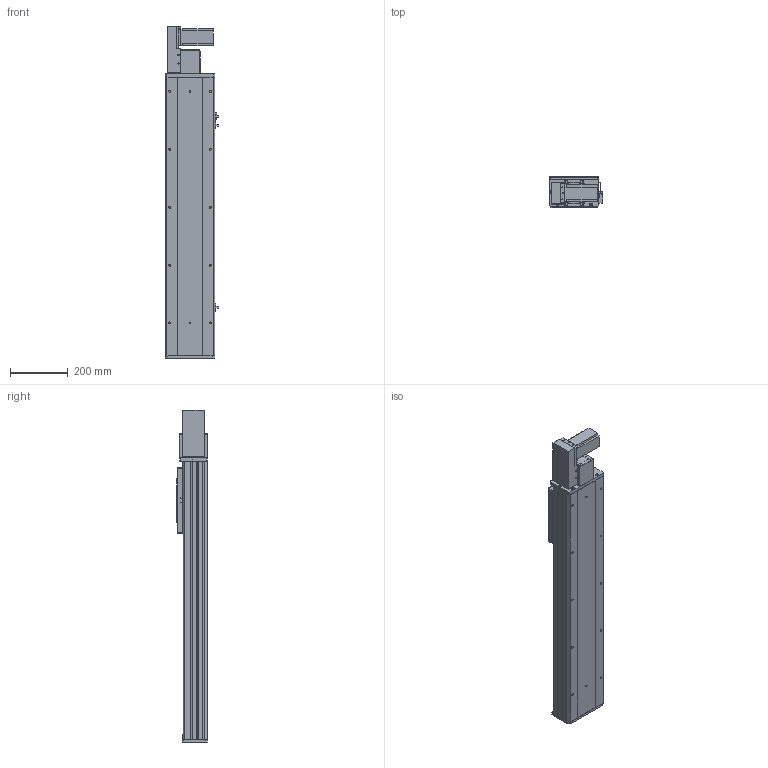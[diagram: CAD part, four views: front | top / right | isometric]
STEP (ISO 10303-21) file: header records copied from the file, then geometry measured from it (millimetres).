
FILE_DESCRIPTION (( 'STEP AP203' ), '1' );
FILE_NAME ('Y170CB-D105-S650-BL-P400W.STEP', '2020-02-20T01:09:48', ( '微软用户' ), ( '微软中国' ), 'SwSTEP 2.0', 'SolidWorks 2017', '' );
FILE_SCHEMA (( 'CONFIG_CONTROL_DESIGN' ));
Length unit declared in the file: millimetre
Products named in the file (18): 0C--雄赽釱俋欶-170; san松下电机400不带刹车----; 70CB-詩湍--; Y70俋欶BR----; Y100-135俋离換覜ん--; 70CB-掛极-; Y170CB-陔俋离換覜結え---; --70CB --喘謫眊楊擘啣-; 70B喘謫眊----; 70CB-耜裔啣-; Y1埴倛裔; 70C--詩湍揤踡え-; B-源倛裔啣; Y170CB-D105-S650-BL-P400W; 70CB--耜裔; 17B-耜蚾蟀諉啣----; 70C-雄赽釱-奻-; 0B-萇儂楊擘啣
Assembly tree (21 placements, depth 2):
  Y170CB-D105-S650-BL-P400W
    B-源倛裔啣
    17B-耜蚾蟀諉啣----
    0B-萇儂楊擘啣
    san松下电机400不带刹车----
    Y70俋欶BR----
    70CB-掛极-
    --70CB --喘謫眊楊擘啣-
    70CB-耜裔啣-  x2
    70C--詩湍揤踡え-  x2
    70CB--耜裔
    70C-雄赽釱-奻-
    0C--雄赽釱俋欶-170
    70CB-詩湍--
    Y100-135俋离換覜ん--  x3
    Y170CB-陔俋离換覜結え---
    70B喘謫眊----
    Y1埴倛裔
Bounding box: 183.5 x 107 x 1147 mm (x, y, z)
Volume: 5159897.6 mm3; surface area: 1839288.4 mm2
Topology: 21 solids, 21 shells, 991 faces, 2645 edges, 1754 vertices
Faces by surface type: cylinder 503, plane 464, cone 24
Entity records: 31444 total; most frequent: CARTESIAN_POINT 5736, DIRECTION 5110, ORIENTED_EDGE 4772, EDGE_CURVE 2386, AXIS2_PLACEMENT_3D 1864, VERTEX_POINT 1584, VECTOR 1382, LINE 1382
